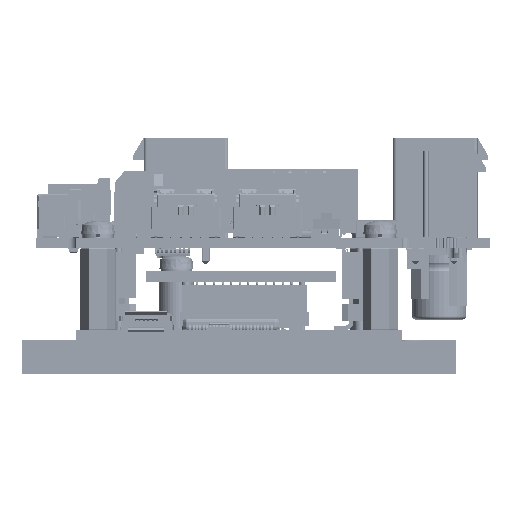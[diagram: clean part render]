
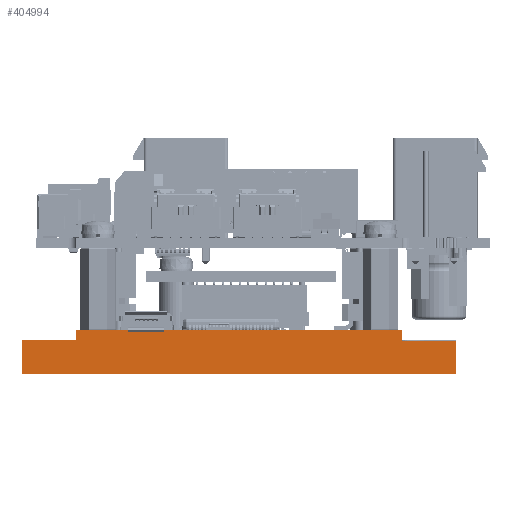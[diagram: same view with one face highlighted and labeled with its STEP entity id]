
A CAD part, front view. The second image highlights one B-rep face of the part: STEP entity #404994.
In plain terms, the highlighted planar face has unit normal (0, -1, 0).
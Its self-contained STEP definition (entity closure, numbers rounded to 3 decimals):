
#20060=DIRECTION('',(-1.,0.,0.));
#20061=VECTOR('',#20060,48.);
#20062=CARTESIAN_POINT('',(-62.976,-173.654,
-25.099));
#20063=LINE('',#20062,#20061);
#26993=DIRECTION('',(-1.,0.,0.));
#26994=VECTOR('',#26993,8.);
#26995=CARTESIAN_POINT('',(-110.976,-173.654,
-26.647));
#26996=LINE('',#26995,#26994);
#27249=DIRECTION('',(0.,0.,-1.));
#27250=VECTOR('',#27249,1.548);
#27251=CARTESIAN_POINT('',(-110.976,-173.654,
-25.099));
#27252=LINE('',#27251,#27250);
#27256=DIRECTION('',(0.,0.,-1.));
#27257=VECTOR('',#27256,4.9);
#27258=CARTESIAN_POINT('',(-54.976,-173.654,
-26.747));
#27259=LINE('',#27258,#27257);
#27263=DIRECTION('',(0.,0.,1.));
#27264=VECTOR('',#27263,1.648);
#27265=CARTESIAN_POINT('',(-62.976,-173.654,
-26.747));
#27266=LINE('',#27265,#27264);
#28161=DIRECTION('',(0.,0.,-1.));
#28162=VECTOR('',#28161,5.);
#28163=CARTESIAN_POINT('',(-118.976,-173.654,
-26.647));
#28164=LINE('',#28163,#28162);
#28196=DIRECTION('',(1.,0.,0.));
#28197=VECTOR('',#28196,64.);
#28198=CARTESIAN_POINT('',(-118.976,-173.654,
-31.647));
#28199=LINE('',#28198,#28197);
#28377=DIRECTION('',(-1.,0.,0.));
#28378=VECTOR('',#28377,8.);
#28379=CARTESIAN_POINT('',(-54.976,-173.654,
-26.747));
#28380=LINE('',#28379,#28378);
#334585=CARTESIAN_POINT('',(-54.976,-173.654,
-26.747));
#334586=CARTESIAN_POINT('',(-54.976,-173.654,
-31.647));
#334587=VERTEX_POINT('',#334585);
#334588=VERTEX_POINT('',#334586);
#334597=CARTESIAN_POINT('',(-62.976,-173.654,
-26.747));
#334598=VERTEX_POINT('',#334597);
#334599=CARTESIAN_POINT('',(-118.976,-173.654,
-31.647));
#334600=VERTEX_POINT('',#334599);
#334601=CARTESIAN_POINT('',(-118.976,-173.654,
-26.647));
#334602=VERTEX_POINT('',#334601);
#373880=CARTESIAN_POINT('',(-62.976,-173.654,
-25.099));
#373881=CARTESIAN_POINT('',(-110.976,-173.654,
-25.099));
#373882=VERTEX_POINT('',#373880);
#373883=VERTEX_POINT('',#373881);
#374296=CARTESIAN_POINT('',(-110.976,-173.654,
-26.647));
#374298=VERTEX_POINT('',#374296);
#404974=CARTESIAN_POINT('',(-54.976,-173.654,
-26.647));
#404975=DIRECTION('',(0.,1.,0.));
#404976=DIRECTION('',(0.,0.,-1.));
#404977=AXIS2_PLACEMENT_3D('',#404974,#404975,#404976);
#404978=PLANE('',#404977);
#404979=ORIENTED_EDGE('',*,*,#404885,.F.);
#404980=ORIENTED_EDGE('',*,*,#404969,.F.);
#404981=ORIENTED_EDGE('',*,*,#402342,.F.);
#404983=ORIENTED_EDGE('',*,*,#404982,.F.);
#404985=ORIENTED_EDGE('',*,*,#404984,.F.);
#404987=ORIENTED_EDGE('',*,*,#404986,.T.);
#404989=ORIENTED_EDGE('',*,*,#404988,.F.);
#404991=ORIENTED_EDGE('',*,*,#404990,.F.);
#404992=EDGE_LOOP('',(#404979,#404980,#404981,#404983,#404985,#404987,#404989,
#404991));
#404993=FACE_OUTER_BOUND('',#404992,.F.);
#404994=ADVANCED_FACE('',(#404993),#404978,.F.);
#402342=EDGE_CURVE('',#373882,#373883,#20063,.T.);
#404885=EDGE_CURVE('',#374298,#334602,#26996,.T.);
#404969=EDGE_CURVE('',#373883,#374298,#27252,.T.);
#404982=EDGE_CURVE('',#334598,#373882,#27266,.T.);
#404984=EDGE_CURVE('',#334587,#334598,#28380,.T.);
#404986=EDGE_CURVE('',#334587,#334588,#27259,.T.);
#404988=EDGE_CURVE('',#334600,#334588,#28199,.T.);
#404990=EDGE_CURVE('',#334602,#334600,#28164,.T.);
